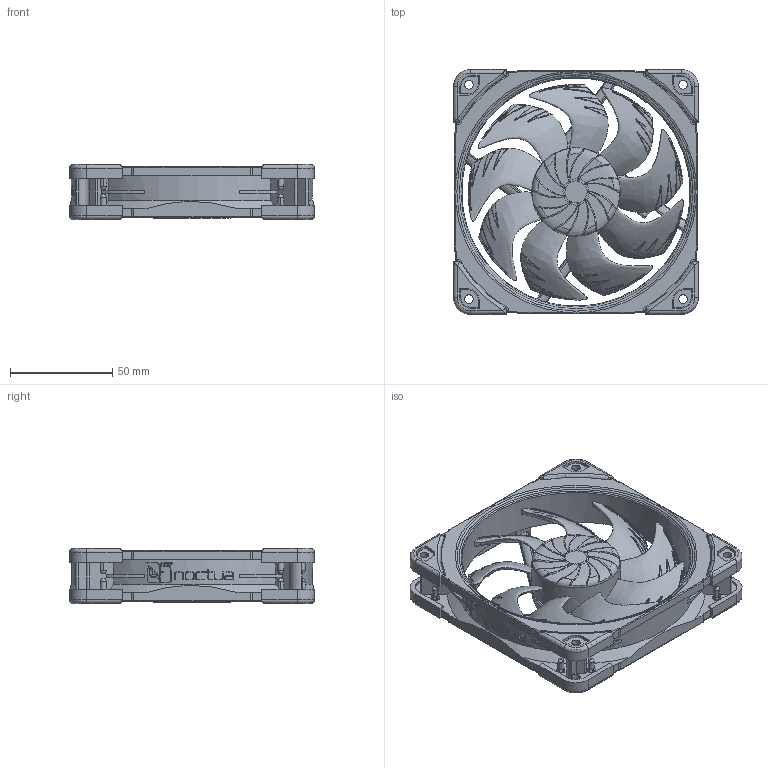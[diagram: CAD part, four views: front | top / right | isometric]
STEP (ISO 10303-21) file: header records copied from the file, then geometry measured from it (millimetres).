
FILE_DESCRIPTION(/* description */ ('140mm Desk Fan'),/* implementation_level */ '2;1');
FILE_NAME(/* name */ 'NF-A12x25_G2_Chromax_Public-CAD',/* time_stamp */ '2026-04-10T16:04:00+02:00',/* author */ ('Andreas'),/* organization */ ('Rascom'),/* preprocessor_version */ 'ST-DEVELOPER v18.102',/* originating_system */ 'Solid Edge',/* authorisation */ 'Unknown');
FILE_SCHEMA (('AUTOMOTIVE_DESIGN {1 0 10303 214 3 1 1}'));
Length unit declared in the file: millimetre
Products named in the file (6): NF-A12x25_G2_Chromax_Public-CAD; NF-A12x25_G2_Public-CAD; Nf-A12x25_G2_Frame-Public; Nf-A12x25_G2_Impeller-Public; NA-AVP1; Fan-Label-D38mm-G2-Chromax
Assembly tree (12 placements, depth 3):
  NF-A12x25_G2_Chromax_Public-CAD
    NF-A12x25_G2_Public-CAD
      Nf-A12x25_G2_Frame-Public
      Nf-A12x25_G2_Impeller-Public
      NA-AVP1  x8
    Fan-Label-D38mm-G2-Chromax
Bounding box: 120 x 120 x 27 mm (x, y, z)
Volume: 108692.5 mm3; surface area: 80684.7 mm2
Topology: 11 solids, 11 shells, 1896 faces, 5375 edges, 3456 vertices
Faces by surface type: plane 707, cylinder 538, bspline 339, cone 167, torus 112, sphere 33
Full cylindrical faces by diameter (mm): 3 x16, 4.3 x8, 38 x2, 43.3 x1, 112.004 x1
Entity records: 60514 total; most frequent: CARTESIAN_POINT 31289, ORIENTED_EDGE 6954, DIRECTION 4445, EDGE_CURVE 3477, VERTEX_POINT 2304, AXIS2_PLACEMENT_3D 1694, B_SPLINE_CURVE_WITH_KNOTS 1657, EDGE_LOOP 1457
